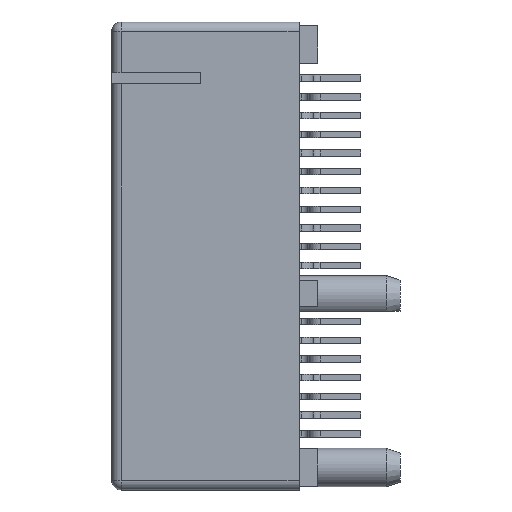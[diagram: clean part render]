
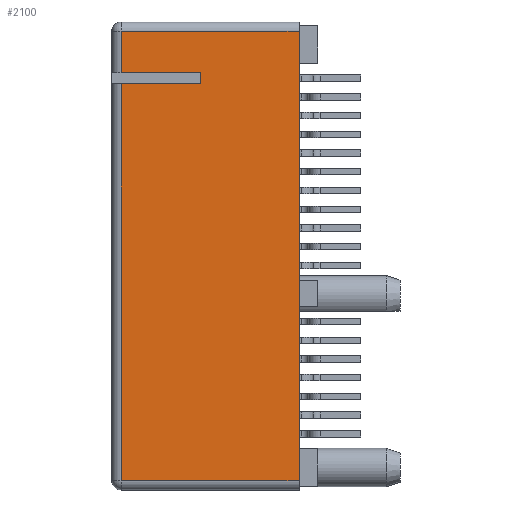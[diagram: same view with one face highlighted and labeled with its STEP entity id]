
A CAD part, left-side view. The second image highlights one B-rep face of the part: STEP entity #2100.
In plain terms, the highlighted planar face has unit normal (-1, 0, 0).
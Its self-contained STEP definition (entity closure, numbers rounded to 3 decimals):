
#20 = DIRECTION ( 'NONE',  ( 0., 0., -1. ) ) ;
#236 = VECTOR ( 'NONE', #369, 1000. ) ;
#369 = DIRECTION ( 'NONE',  ( 0., 1., 0. ) ) ;
#694 = LINE ( 'NONE', #788, #236 ) ;
#782 = CARTESIAN_POINT ( 'NONE',  ( -3.7, 5.25, 21.7 ) ) ;
#788 = CARTESIAN_POINT ( 'NONE',  ( -3.7, 4.469, 21.7 ) ) ;
#1005 = DIRECTION ( 'NONE',  ( 0., 0., -1. ) ) ;
#1140 = VECTOR ( 'NONE', #1238, 1000. ) ;
#1238 = DIRECTION ( 'NONE',  ( 0., 1., 0. ) ) ;
#1490 = CARTESIAN_POINT ( 'NONE',  ( -3.7, 5.25, 21.7 ) ) ;
#1494 = CARTESIAN_POINT ( 'NONE',  ( -3.7, 4.469, 22.3 ) ) ;
#1583 = VECTOR ( 'NONE', #2186, 1000. ) ;
#1628 = CARTESIAN_POINT ( 'NONE',  ( -3.7, 9.5, 25. ) ) ;
#1800 = DIRECTION ( 'NONE',  ( 0., 0., -1. ) ) ;
#2100 = ADVANCED_FACE ( 'NONE', ( #17393 ), #17090, .F. ) ;
#2186 = DIRECTION ( 'NONE',  ( 0., 1., 0. ) ) ;
#2387 = CARTESIAN_POINT ( 'NONE',  ( -3.7, 10., 24.5 ) ) ;
#3601 = LINE ( 'NONE', #18471, #15378 ) ;
#3636 = DIRECTION ( 'NONE',  ( 0., 0., -1. ) ) ;
#4213 = CARTESIAN_POINT ( 'NONE',  ( -3.7, 0., 25. ) ) ;
#4214 = CARTESIAN_POINT ( 'NONE',  ( -3.7, 9.5, 22.3 ) ) ;
#4517 = LINE ( 'NONE', #1490, #15837 ) ;
#5985 = CARTESIAN_POINT ( 'NONE',  ( -3.7, 0., 24.5 ) ) ;
#6012 = CARTESIAN_POINT ( 'NONE',  ( -3.7, 9.5, 0.5 ) ) ;
#7136 = LINE ( 'NONE', #18425, #18108 ) ;
#7725 = EDGE_CURVE ( 'NONE', #10735, #18260, #11934, .T. ) ;
#8057 = VECTOR ( 'NONE', #3636, 1000. ) ;
#8999 = VECTOR ( 'NONE', #1800, 1000. ) ;
#9100 = CARTESIAN_POINT ( 'NONE',  ( -3.7, 9.5, 24.5 ) ) ;
#9461 = LINE ( 'NONE', #1628, #8999 ) ;
#10735 = VERTEX_POINT ( 'NONE', #5985 ) ;
#11934 = LINE ( 'NONE', #4213, #8057 ) ;
#12153 = EDGE_CURVE ( 'NONE', #10735, #13261, #17120, .T. ) ;
#12177 = EDGE_CURVE ( 'NONE', #13261, #13757, #9461, .T. ) ;
#12179 = EDGE_CURVE ( 'NONE', #12827, #13757, #16701, .T. ) ;
#12207 = EDGE_CURVE ( 'NONE', #12827, #14184, #4517, .T. ) ;
#12216 = EDGE_CURVE ( 'NONE', #14184, #14436, #694, .T. ) ;
#12247 = EDGE_CURVE ( 'NONE', #14436, #14654, #3601, .T. ) ;
#12268 = EDGE_CURVE ( 'NONE', #14654, #18260, #7136, .T. ) ;
#12827 = VERTEX_POINT ( 'NONE', #13078 ) ;
#13078 = CARTESIAN_POINT ( 'NONE',  ( -3.7, 5.25, 22.3 ) ) ;
#13261 = VERTEX_POINT ( 'NONE', #9100 ) ;
#13619 = CARTESIAN_POINT ( 'NONE',  ( -3.7, 0., 0.5 ) ) ;
#13757 = VERTEX_POINT ( 'NONE', #4214 ) ;
#13876 = AXIS2_PLACEMENT_3D ( 'NONE', #16865, #16827, #16797 ) ;
#14184 = VERTEX_POINT ( 'NONE', #782 ) ;
#14307 = ORIENTED_EDGE ( 'NONE', *, *, #7725, .F. ) ;
#14436 = VERTEX_POINT ( 'NONE', #17100 ) ;
#14457 = ORIENTED_EDGE ( 'NONE', *, *, #12153, .T. ) ;
#14554 = ORIENTED_EDGE ( 'NONE', *, *, #12177, .T. ) ;
#14654 = VERTEX_POINT ( 'NONE', #6012 ) ;
#14661 = ORIENTED_EDGE ( 'NONE', *, *, #12179, .F. ) ;
#14695 = ORIENTED_EDGE ( 'NONE', *, *, #12207, .T. ) ;
#14773 = ORIENTED_EDGE ( 'NONE', *, *, #12216, .T. ) ;
#14811 = ORIENTED_EDGE ( 'NONE', *, *, #12247, .T. ) ;
#14828 = ORIENTED_EDGE ( 'NONE', *, *, #12268, .T. ) ;
#15378 = VECTOR ( 'NONE', #20, 1000. ) ;
#15837 = VECTOR ( 'NONE', #1005, 1000. ) ;
#16701 = LINE ( 'NONE', #1494, #1140 ) ;
#16797 = DIRECTION ( 'NONE',  ( 0., 1., 0. ) ) ;
#16827 = DIRECTION ( 'NONE',  ( 1., 0., 0. ) ) ;
#16865 = CARTESIAN_POINT ( 'NONE',  ( -3.7, 10., 25. ) ) ;
#17090 = PLANE ( 'NONE',  #13876 ) ;
#17100 = CARTESIAN_POINT ( 'NONE',  ( -3.7, 9.5, 21.7 ) ) ;
#17120 = LINE ( 'NONE', #2387, #1583 ) ;
#17393 = FACE_OUTER_BOUND ( 'NONE', #17782, .T. ) ;
#17782 = EDGE_LOOP ( 'NONE', ( #14307, #14457, #14554, #14661, #14695, #14773, #14811, #14828 ) ) ;
#18108 = VECTOR ( 'NONE', #18360, 1000. ) ;
#18260 = VERTEX_POINT ( 'NONE', #13619 ) ;
#18360 = DIRECTION ( 'NONE',  ( 0., -1., 0. ) ) ;
#18425 = CARTESIAN_POINT ( 'NONE',  ( -3.7, 10., 0.5 ) ) ;
#18471 = CARTESIAN_POINT ( 'NONE',  ( -3.7, 9.5, 25. ) ) ;
